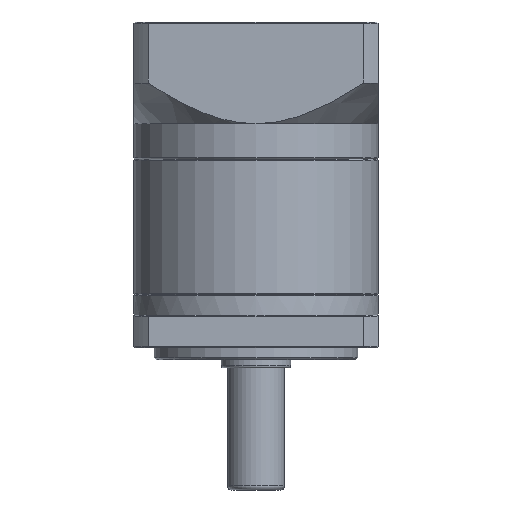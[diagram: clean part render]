
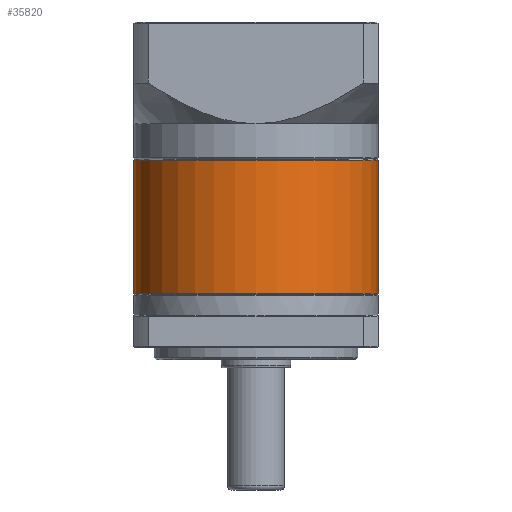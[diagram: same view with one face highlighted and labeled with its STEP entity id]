
A CAD part, front view. The second image highlights one B-rep face of the part: STEP entity #35820.
In plain terms, the highlighted cylindrical face has radius 30 mm (diameter 60 mm), a partial arc.
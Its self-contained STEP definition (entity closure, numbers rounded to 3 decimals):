
#2231 = EDGE_CURVE ( 'NONE', #3444, #13315, #83211, .T. ) ;
#2284 = VECTOR ( 'NONE', #86552, 1000. ) ;
#3444 = VERTEX_POINT ( 'NONE', #57053 ) ;
#4189 = CARTESIAN_POINT ( 'NONE',  ( 1.856, 2.135, 121.95 ) ) ;
#7866 = DIRECTION ( 'NONE',  ( 0., 0., -1. ) ) ;
#8882 = CARTESIAN_POINT ( 'NONE',  ( -28.144, 2.135, 121.95 ) ) ;
#12281 = CARTESIAN_POINT ( 'NONE',  ( 1.856, 2.135, 88.9 ) ) ;
#13315 = VERTEX_POINT ( 'NONE', #82851 ) ;
#19759 = DIRECTION ( 'NONE',  ( 1., 0., 0. ) ) ;
#24419 = EDGE_CURVE ( 'NONE', #46086, #89581, #59017, .T. ) ;
#24422 = ORIENTED_EDGE ( 'NONE', *, *, #69384, .T. ) ;
#25331 = ORIENTED_EDGE ( 'NONE', *, *, #24419, .F. ) ;
#29572 = EDGE_LOOP ( 'NONE', ( #25331, #24422, #94385, #53287 ) ) ;
#32409 = AXIS2_PLACEMENT_3D ( 'NONE', #4189, #33995, #71135 ) ;
#32650 = CIRCLE ( 'NONE', #62162, 30. ) ;
#33995 = DIRECTION ( 'NONE',  ( 0., 0., -1. ) ) ;
#35820 = ADVANCED_FACE ( 'NONE', ( #70635 ), #44088, .T. ) ;
#37395 = EDGE_CURVE ( 'NONE', #13315, #89581, #67290, .T. ) ;
#41630 = CARTESIAN_POINT ( 'NONE',  ( 31.856, 2.135, 121.7 ) ) ;
#44009 = VECTOR ( 'NONE', #53230, 1000. ) ;
#44088 = CYLINDRICAL_SURFACE ( 'NONE', #32409, 30. ) ;
#46086 = VERTEX_POINT ( 'NONE', #41630 ) ;
#50124 = CARTESIAN_POINT ( 'NONE',  ( 31.856, 2.135, 121.95 ) ) ;
#52211 = CARTESIAN_POINT ( 'NONE',  ( 1.856, 2.135, 121.7 ) ) ;
#53230 = DIRECTION ( 'NONE',  ( 0., 0., -1. ) ) ;
#53287 = ORIENTED_EDGE ( 'NONE', *, *, #37395, .T. ) ;
#57053 = CARTESIAN_POINT ( 'NONE',  ( -28.144, 2.135, 121.7 ) ) ;
#59017 = LINE ( 'NONE', #50124, #2284 ) ;
#59594 = DIRECTION ( 'NONE',  ( 1., 0., 0. ) ) ;
#60044 = CARTESIAN_POINT ( 'NONE',  ( 31.856, 2.135, 88.9 ) ) ;
#62162 = AXIS2_PLACEMENT_3D ( 'NONE', #52211, #7866, #59594 ) ;
#63984 = DIRECTION ( 'NONE',  ( 0., 0., 1. ) ) ;
#65351 = AXIS2_PLACEMENT_3D ( 'NONE', #12281, #63984, #19759 ) ;
#67290 = CIRCLE ( 'NONE', #65351, 30. ) ;
#69384 = EDGE_CURVE ( 'NONE', #46086, #3444, #32650, .T. ) ;
#70635 = FACE_OUTER_BOUND ( 'NONE', #29572, .T. ) ;
#71135 = DIRECTION ( 'NONE',  ( -1., 0., 0. ) ) ;
#82851 = CARTESIAN_POINT ( 'NONE',  ( -28.144, 2.135, 88.9 ) ) ;
#83211 = LINE ( 'NONE', #8882, #44009 ) ;
#86552 = DIRECTION ( 'NONE',  ( 0., 0., -1. ) ) ;
#89581 = VERTEX_POINT ( 'NONE', #60044 ) ;
#94385 = ORIENTED_EDGE ( 'NONE', *, *, #2231, .T. ) ;
